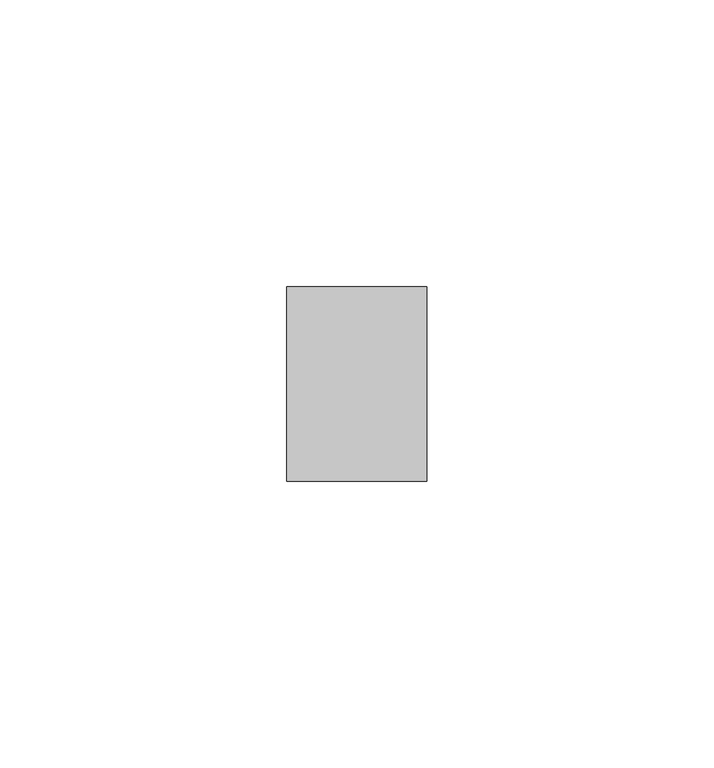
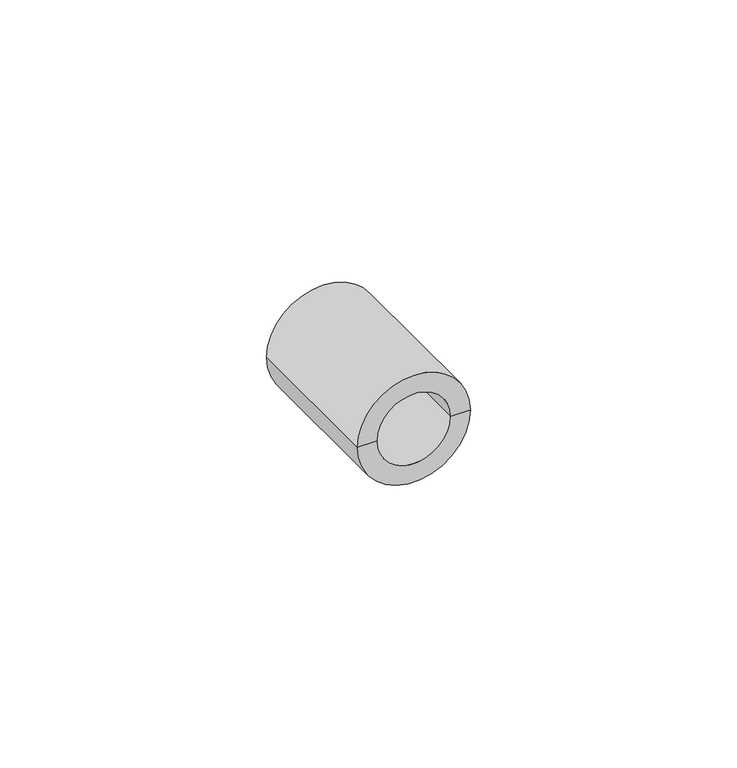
"""IFC4 building model written with IfcOpenShell, lengths in millimetres: pipe fitting geometry, NIRON RED termofusion manguito : Estándar."""

from ifc_helpers import new_model, si_unit, frame, origin, place, context, project, spatial, polyline, circle_curve, source, transform, mapped, element, save
from ifc_brep_helpers import plane_surface, cylinder_surface, revolved_surface, advanced_brep


def pipe_fitting_ab091ece(model_context):
    return source(origin(), model_context, "Body", "AdvancedBrep", [
        advanced_brep(
        [(12.25, 34.0, 0.0), (-12.25, 34.0, 0.0), (-8.0, 34.0, 0.0), (8.0, 34.0, 0.0), (12.25, 0.0, 0.0), (-12.25, 0.0, 0.0), (8.0, 0.0, 0.0), (-8.0, 0.0, 0.0), (8.0, 16.0, 0.0), (-8.0, 16.0, 0.0), (5.0, 16.0, 0.0), (-5.0, 16.0, 0.0), (5.0, 18.0, 0.0), (-5.0, 18.0, 0.0), (8.0, 18.0, 0.0), (-8.0, 18.0, 0.0)],
        [
            (0, 1, circle_curve(frame((0.0, 34.0, 0.0), z_axis=(0.0, 1.0, 0.0), x_axis=(-1.0, 0.0, 0.0)), 12.25)),
            (1, 2),
            (2, 3, circle_curve(frame((0.0, 34.0, 0.0), z_axis=(0.0, -1.0, 0.0), x_axis=(-1.0, 0.0, 0.0)), 8.0)),
            (3, 0),
            (1, 0, circle_curve(frame((0.0, 34.0, 0.0), z_axis=(0.0, 1.0, 0.0), x_axis=(-1.0, 0.0, 0.0)), 12.25)),
            (3, 2, circle_curve(frame((0.0, 34.0, 0.0), z_axis=(0.0, -1.0, 0.0), x_axis=(-1.0, 0.0, 0.0)), 8.0)),
            (4, 5, circle_curve(frame((0.0, 0.0, 0.0), z_axis=(0.0, 1.0, 0.0), x_axis=(-1.0, 0.0, 0.0)), 12.25)),
            (5, 1),
            (0, 4),
            (5, 4, circle_curve(frame((0.0, 0.0, 0.0), z_axis=(0.0, 1.0, 0.0), x_axis=(-1.0, 0.0, 0.0)), 12.25)),
            (6, 7, circle_curve(frame((0.0, 0.0, 0.0), z_axis=(0.0, 1.0, 0.0), x_axis=(-1.0, 0.0, 0.0)), 8.0)),
            (7, 5),
            (4, 6),
            (7, 6, circle_curve(frame((0.0, 0.0, 0.0), z_axis=(0.0, 1.0, 0.0), x_axis=(-1.0, 0.0, 0.0)), 8.0)),
            (8, 9, circle_curve(frame((0.0, 16.0, 0.0), z_axis=(0.0, 1.0, 0.0), x_axis=(-1.0, 0.0, 0.0)), 8.0)),
            (9, 7),
            (6, 8),
            (9, 8, circle_curve(frame((0.0, 16.0, 0.0), z_axis=(0.0, 1.0, 0.0), x_axis=(-1.0, 0.0, 0.0)), 8.0)),
            (10, 11, circle_curve(frame((0.0, 16.0, 0.0), z_axis=(0.0, 1.0, 0.0), x_axis=(-1.0, 0.0, 0.0)), 5.0)),
            (11, 9),
            (8, 10),
            (11, 10, circle_curve(frame((0.0, 16.0, 0.0), z_axis=(0.0, 1.0, 0.0), x_axis=(-1.0, 0.0, 0.0)), 5.0)),
            (12, 13, circle_curve(frame((0.0, 18.0, 0.0), z_axis=(0.0, 1.0, 0.0), x_axis=(-1.0, 0.0, 0.0)), 5.0)),
            (13, 11),
            (10, 12),
            (13, 12, circle_curve(frame((0.0, 18.0, 0.0), z_axis=(0.0, 1.0, 0.0), x_axis=(-1.0, 0.0, 0.0)), 5.0)),
            (14, 15, circle_curve(frame((0.0, 18.0, 0.0), z_axis=(0.0, 1.0, 0.0), x_axis=(-1.0, 0.0, 0.0)), 8.0)),
            (15, 13),
            (12, 14),
            (15, 14, circle_curve(frame((0.0, 18.0, 0.0), z_axis=(0.0, 1.0, 0.0), x_axis=(-1.0, 0.0, 0.0)), 8.0)),
            (2, 15),
            (14, 3),
        ],
        [
            plane_surface(frame((0.0, 34.0, 0.0), z_axis=(0.0, 1.0, 0.0), x_axis=(-1.0, 0.0, 0.0))),
            cylinder_surface(frame((0.0, 59.0, 0.0), z_axis=(0.0, -1.0, 0.0), x_axis=(-1.0, 0.0, 0.0)), 12.25),
            plane_surface(frame((0.0, 0.0, 0.0), z_axis=(0.0, -1.0, 0.0), x_axis=(-1.0, 0.0, 0.0))),
            revolved_surface(polyline([(-8.0, 0.0, 0.0), (-8.0, 16.0, 0.0)]), (0.0, 59.0, 0.0), (0.0, -1.0, 0.0)),
            plane_surface(frame((0.0, 16.0, 0.0), z_axis=(0.0, -1.0, 0.0), x_axis=(-1.0, 0.0, 0.0))),
            revolved_surface(polyline([(-5.0, 16.0, 0.0), (-5.0, 18.0, 0.0)]), (0.0, 59.0, 0.0), (0.0, -1.0, 0.0)),
            plane_surface(frame((0.0, 18.0, 0.0), z_axis=(0.0, 1.0, 0.0), x_axis=(-1.0, 0.0, 0.0))),
            revolved_surface(polyline([(-8.0, 18.0, 0.0), (-8.0, 34.0, 0.0)]), (0.0, 59.0, 0.0), (0.0, -1.0, 0.0)),
        ],
        [
            (0, [[1, 2, 3, 4]]),
            (0, [[5, -4, 6, -2]]),
            (1, [[7, 8, -1, 9]]),
            (1, [[10, -9, -5, -8]]),
            (2, [[11, 12, -7, 13]]),
            (2, [[14, -13, -10, -12]]),
            (3, [[15, 16, -11, 17]]),
            (3, [[18, -17, -14, -16]]),
            (4, [[19, 20, -15, 21]]),
            (4, [[22, -21, -18, -20]]),
            (5, [[23, 24, -19, 25]]),
            (5, [[26, -25, -22, -24]]),
            (6, [[27, 28, -23, 29]]),
            (6, [[30, -29, -26, -28]]),
            (7, [[-3, 31, -27, 32]]),
            (7, [[-6, -32, -30, -31]]),
        ],
    ),
    ])


if __name__ == "__main__":
    model = new_model("IFC4")
    model_context = context("Model", 3, world=origin())
    ifc_project = project(units=[si_unit("LENGTHUNIT", "METRE", prefix="MILLI")], contexts=[model_context])
    site = spatial("IfcSite", under=ifc_project)
    building = spatial("IfcBuilding", under=site)
    placement = place(None, origin())
    pipe_fitting_shape = pipe_fitting_ab091ece(model_context)
    element("IfcPipeFitting", 1, ObjectType="NIRON RED termofusion manguito : Estándar", at=placement, inside=building, context=model_context, shape_type="MappedRepresentation", body=[
        mapped(pipe_fitting_shape, transform((0.0, 0.0, 0.0), x_axis=(1.0, 0.0, 0.0), y_axis=(0.0, 1.0, 0.0), z_axis=(0.0, 0.0, 1.0))),
    ])
    save(model, "model.ifc")
